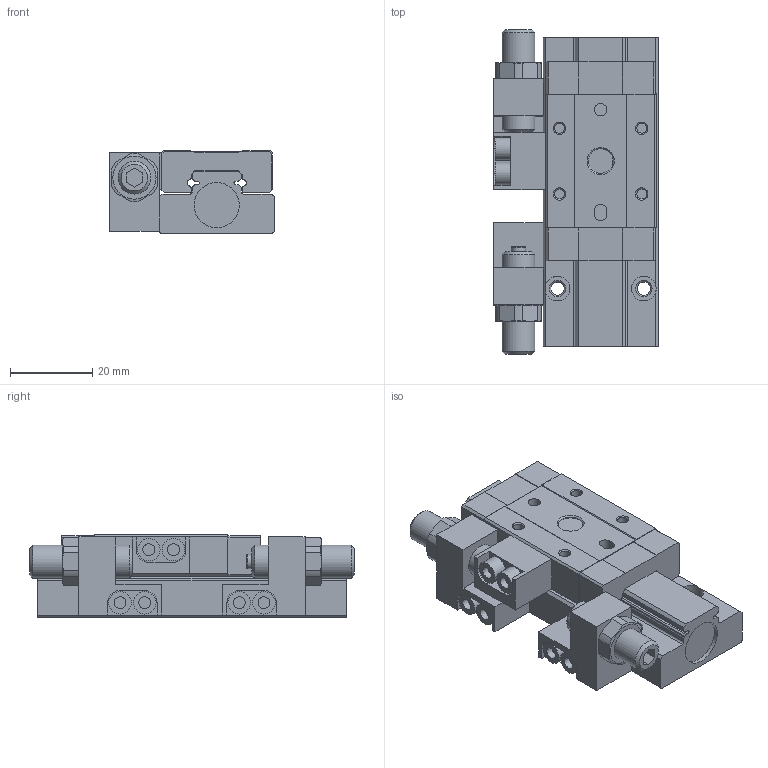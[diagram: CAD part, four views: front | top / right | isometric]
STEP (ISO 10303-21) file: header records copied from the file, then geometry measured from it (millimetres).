
FILE_DESCRIPTION(/* description */ ('STEP AP214'),/* implementation_level */ '2;1');
FILE_NAME(/* name */ 'HGS10X15J(0)',/* time_stamp */ '2024-09-22T11:42:26+02:00',/* author */ ('License CC BY-ND 4.0'),/* organization */ ('CADENAS'),/* preprocessor_version */ 'ST-DEVELOPER v19.3',/* originating_system */ 'PARTsolutions',/* authorisation */ ' ');
FILE_SCHEMA (('AUTOMOTIVE_DESIGN {1 0 10303 214 3 1 1}'));
Length unit declared in the file: millimetre
Products named in the file (4): HGS10X15J(0); HGS10X15J(0)_dummy; HGS10X15J(0)_body; HGS10X15J(0)_t
Assembly tree (3 placements, depth 2):
  HGS10X15J(0)
    HGS10X15J(0)_dummy
    HGS10X15J(0)_body
    HGS10X15J(0)_t
Bounding box: 40 x 79 x 20 mm (x, y, z)
Volume: 40729.6 mm3; surface area: 18325.5 mm2
Topology: 2 solids, 8 shells, 318 faces, 741 edges, 482 vertices
Faces by surface type: plane 186, cylinder 98, cone 32, torus 2
Full cylindrical faces by diameter (mm): 2.459 x16, 2.88 x4, 2.9 x2, 3 x2, 3.242 x4, 3.5 x2, 4.134 x2, 5.5 x6, 6 x6, 8 x4, 11 x2
Entity records: 8658 total; most frequent: CARTESIAN_POINT 1511, DIRECTION 1500, ORIENTED_EDGE 1292, EDGE_CURVE 646, AXIS2_PLACEMENT_3D 556, VERTEX_POINT 470, EDGE_LOOP 454, FACE_BOUND 454
